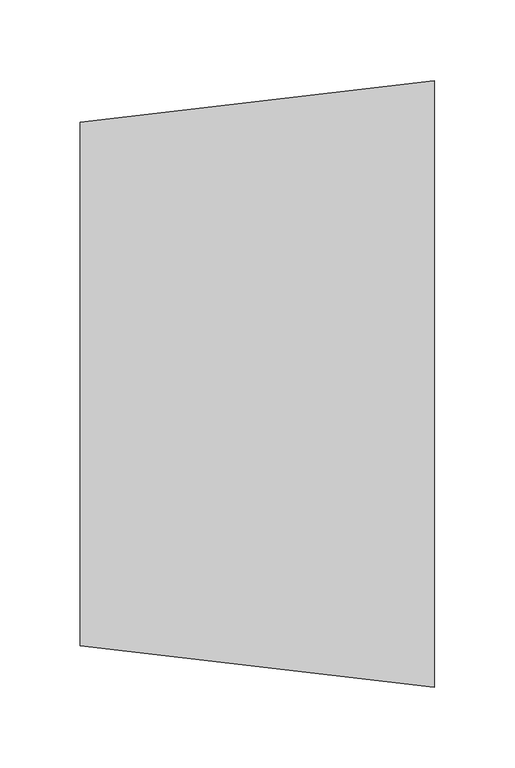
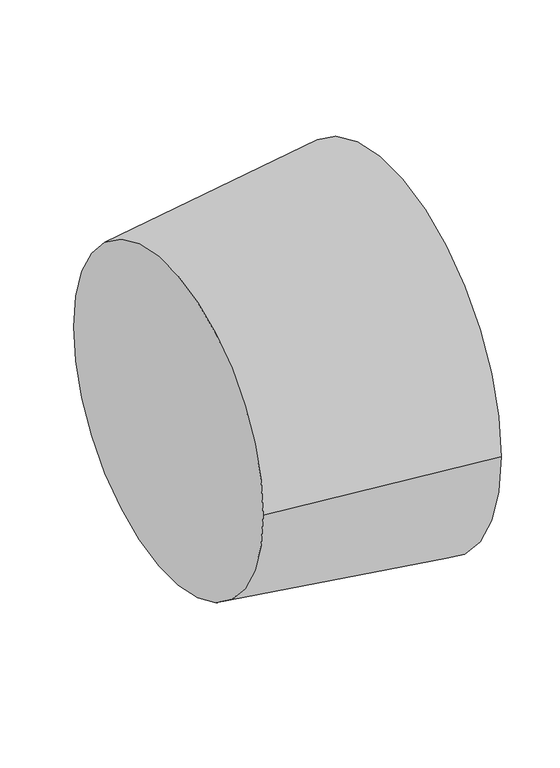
"""IFC4 building model written with IfcOpenShell, lengths in millimetres: pipe fitting geometry, ADSK_ДетальСтальнаяСварная_Переход_ГОСТ17378-2001 : Исполнение 2."""

import ifcopenshell
import ifcopenshell.guid

model = None  # the IFC model being written
_history = None  # IfcOwnerHistory: only IFC2X3 demands one
_inside = {}  # id of a spatial element -> (the spatial element, [elements in it])
_under = {}  # id of a project, library or spatial element -> (it, [spatial elements below it])
_declared = {}  # id of a project -> (the project, [libraries it declares])
_typed = {}  # id of a type object -> (the type object, [elements of that type])
_made_of = {}  # id of a material, layer set ... -> (it, [elements and type objects made of it])


def new_model(schema):
    """Start an empty IFC model of exactly this schema.

    Asked for "IFC4X3", IfcOpenShell would pick the latest addendum, in which some entities
    have other attributes; the version numbers below select the first issue.
    IFC2X3 requires an IfcOwnerHistory on every rooted entity: one is made here for all.
    """
    global model, _history
    if schema == "IFC4X3":
        model = ifcopenshell.file(schema_version=(4, 3, 0, 0))
    else:
        model = ifcopenshell.file(schema=schema)
    _inside.clear()
    _under.clear()
    _declared.clear()
    _typed.clear()
    _made_of.clear()
    _history = None
    if model.schema == "IFC2X3":
        org = make("IfcOrganization", Name="unknown")
        user = make(
            "IfcPersonAndOrganization",
            ThePerson=make("IfcPerson", FamilyName="unknown"),
            TheOrganization=org,
        )
        app = make(
            "IfcApplication",
            ApplicationDeveloper=org,
            Version="unknown",
            ApplicationFullName="unknown",
            ApplicationIdentifier="unknown",
        )
        _history = make(
            "IfcOwnerHistory",
            OwningUser=user,
            OwningApplication=app,
            ChangeAction="ADDED",
            CreationDate=0,
        )
    return model


def make(cls, **values):
    """One entity of the class cls with the attributes given. An attribute that is None is left unset."""
    return model.create_entity(
        cls, **{name: value for name, value in values.items() if value is not None}
    )


def rooted(cls, **values):
    """An entity with a GlobalId (a new one), such as an element, a storey or a relation."""
    return make(cls, GlobalId=ifcopenshell.guid.new(), OwnerHistory=_history, **values)


def si_unit(unit_type, name, prefix=None):
    """IfcSIUnit, for example si_unit("LENGTHUNIT", "METRE", prefix="MILLI")."""
    return make("IfcSIUnit", UnitType=unit_type, Prefix=prefix, Name=name)


def assignment(units):
    """IfcUnitAssignment: the units of a project."""
    return None if units is None else make("IfcUnitAssignment", Units=units)


def point(xyz):
    """IfcCartesianPoint."""
    return None if xyz is None else make("IfcCartesianPoint", Coordinates=xyz)


def direction(xyz):
    """IfcDirection."""
    return None if xyz is None else make("IfcDirection", DirectionRatios=xyz)


def frame(location, z_axis=None, x_axis=None):
    """IfcAxis2Placement3D, a coordinate frame: its origin and axes. An axis left out is left unset."""
    return make(
        "IfcAxis2Placement3D",
        Location=point(location),
        Axis=direction(z_axis),
        RefDirection=direction(x_axis),
    )


def origin():
    """The frame at (0, 0, 0) with its axes left unset."""
    return frame((0.0, 0.0, 0.0))


def place(relative_to, where):
    """IfcLocalPlacement: puts the frame where relative to a parent placement (None: the world)."""
    return make(
        "IfcLocalPlacement", PlacementRelTo=relative_to, RelativePlacement=where
    )


def context(
    kind, dimensions, precision=None, world=None, true_north=None, identifier=None
):
    """IfcGeometricRepresentationContext, for example the 3D "Model" context."""
    return make(
        "IfcGeometricRepresentationContext",
        ContextIdentifier=identifier,
        ContextType=kind,
        CoordinateSpaceDimension=dimensions,
        Precision=precision,
        WorldCoordinateSystem=world,
        TrueNorth=true_north,
    )


def project(units=None, contexts=None):
    """IfcProject with its units and contexts."""
    return rooted(
        "IfcProject",
        Name="project",
        RepresentationContexts=contexts,
        UnitsInContext=assignment(units),
    )


def spatial(cls, under=None, at=None, **own):
    """A site, building, storey or space (cls), placed at a placement, below another one or the project."""
    s = rooted(cls, ObjectPlacement=at, **own)
    if under is not None:
        _under.setdefault(under.id(), (under, []))[1].append(s)
    return s


def polyline(points):
    """IfcPolyline through the points."""
    return make("IfcPolyline", Points=[point(p) for p in points])


def circle_curve(where, radius):
    """IfcCircle in the frame where."""
    return make("IfcCircle", Position=where, Radius=radius)


def shape(context_of_items, identifier, shape_type, items):
    """IfcShapeRepresentation: the items that make up one representation, for example the "Body"."""
    return make(
        "IfcShapeRepresentation",
        ContextOfItems=context_of_items,
        RepresentationIdentifier=identifier,
        RepresentationType=shape_type,
        Items=items,
    )


def source(mapping_origin, context_of_items, identifier, shape_type, items):
    """IfcRepresentationMap: a shape defined once, which mapped items show again and again."""
    return make(
        "IfcRepresentationMap",
        MappingOrigin=mapping_origin,
        MappedRepresentation=shape(context_of_items, identifier, shape_type, items),
    )


def transform(
    local_origin,
    x_axis=None,
    y_axis=None,
    z_axis=None,
    scale=None,
    scale2=None,
    scale3=None,
    uniform=True,
):
    """IfcCartesianTransformationOperator3D, or its non-uniform kind. x_axis, y_axis, z_axis: its Axis1, 2, 3."""
    if uniform:
        return make(
            "IfcCartesianTransformationOperator3D",
            Axis1=direction(x_axis),
            Axis2=direction(y_axis),
            LocalOrigin=point(local_origin),
            Scale=scale,
            Axis3=direction(z_axis),
        )
    return make(
        "IfcCartesianTransformationOperator3DnonUniform",
        Axis1=direction(x_axis),
        Axis2=direction(y_axis),
        LocalOrigin=point(local_origin),
        Scale=scale,
        Axis3=direction(z_axis),
        Scale2=scale2,
        Scale3=scale3,
    )


def mapped(mapping_source, mapping_target):
    """IfcMappedItem: shows the shape of a source again, moved by a transform."""
    return make(
        "IfcMappedItem", MappingSource=mapping_source, MappingTarget=mapping_target
    )


def made_of(thing, what):
    """Note that an element or type object is made of a material, layer set ...; save() writes the relation."""
    if what is not None:
        _made_of.setdefault(what.id(), (what, []))[1].append(thing)
    return thing


def element(
    cls,
    number,
    at=None,
    inside=None,
    cuts=None,
    type_object=None,
    material=None,
    context=None,
    identifier="Body",
    shape_type=None,
    held_by="IfcProductDefinitionShape",
    body=None,
    shapes=None,
    **own,
):
    """One element of the class cls, such as IfcWall. Its Tag is "e" and its number.

    at: its placement. inside: the storey or other place that contains it. cuts: it is an
    opening in that element (IfcRelVoidsElement). A single representation is given by context,
    identifier, shape_type and body (its items); several are given by shapes. held_by: the class
    of the entity that holds the representations. save() writes the other relations.
    """
    e = rooted(cls, Tag="e%d" % number, ObjectPlacement=at, **own)
    if body is not None:
        shapes = [shape(context, identifier, shape_type, body)]
    if shapes is not None:
        e.Representation = make(held_by, Representations=shapes)
    if inside is not None:
        _inside.setdefault(inside.id(), (inside, []))[1].append(e)
    if cuts is not None:
        rooted(
            "IfcRelVoidsElement", RelatingBuildingElement=cuts, RelatedOpeningElement=e
        )
    if type_object is not None:
        _typed.setdefault(type_object.id(), (type_object, []))[1].append(e)
    return made_of(e, material)


def aggregate(whole, parts):
    """IfcRelAggregates: a whole, such as a stair, and the parts it consists of."""
    return rooted("IfcRelAggregates", RelatingObject=whole, RelatedObjects=parts)


def save(model, path):
    """Write the relations noted so far, then the file.

    IfcRelAggregates (storeys below a building ...), IfcRelContainedInSpatialStructure (elements
    in a storey), IfcRelDefinesByType, IfcRelAssociatesMaterial and IfcRelDeclares: one each for
    every whole, place, type object, material and project.
    """
    for whole, parts in _under.values():
        aggregate(whole, parts)
    for where, things in _inside.values():
        rooted(
            "IfcRelContainedInSpatialStructure",
            RelatedElements=things,
            RelatingStructure=where,
        )
    for kind, things in _typed.values():
        rooted("IfcRelDefinesByType", RelatedObjects=things, RelatingType=kind)
    for what, things in _made_of.values():
        rooted("IfcRelAssociatesMaterial", RelatedObjects=things, RelatingMaterial=what)
    for by, libraries in _declared.values():
        rooted("IfcRelDeclares", RelatingContext=by, RelatedDefinitions=libraries)
    model.write(path)


def plane_surface(at):
    """IfcPlane: the flat surface through the origin of the frame at, square to its z axis."""
    return make("IfcPlane", Position=at)


def revolved_surface(curve, axis_point, axis_direction):
    """IfcSurfaceOfRevolution: the curve turned about the line through axis_point along axis_direction."""
    return make(
        "IfcSurfaceOfRevolution",
        SweptCurve=make("IfcArbitraryOpenProfileDef", ProfileType="CURVE", Curve=curve),
        AxisPosition=make("IfcAxis1Placement", Location=point(axis_point), Axis=direction(axis_direction)),
    )


def advanced_brep(points, edges, surfaces, faces):
    """IfcAdvancedBrep: a solid bounded by faces that lie on surfaces and meet in shared edges.

    An edge is (start, end): straight between two places in points (the first is 0);
    or (start, end, curve); or (start, end, curve, False) where it runs against its curve.
    A face is (place in surfaces, loops), or (place, loops, False) where it looks against
    its surface's normal. A loop lists edges by number (the first is 1), with a minus sign
    where the edge is run from its end to its start. The first loop is the outer one.
    """
    corners = [point(p) for p in points]
    vertices = [make("IfcVertexPoint", VertexGeometry=c) for c in corners]
    made = []
    for start, end, *more in edges:
        made.append(
            make(
                "IfcEdgeCurve",
                EdgeStart=vertices[start],
                EdgeEnd=vertices[end],
                EdgeGeometry=more[0] if more else make("IfcPolyline", Points=[corners[start], corners[end]]),
                SameSense=more[1] if len(more) > 1 else True,
            )
        )
    hull = []
    for where, loops, *sense in faces:
        bounds = []
        for j, loop in enumerate(loops):
            ring = [make("IfcOrientedEdge", EdgeElement=made[abs(k) - 1], Orientation=k > 0) for k in loop]
            bounds.append(
                make(
                    "IfcFaceOuterBound" if j == 0 else "IfcFaceBound",
                    Bound=make("IfcEdgeLoop", EdgeList=ring),
                    Orientation=True,
                )
            )
        hull.append(make("IfcAdvancedFace", Bounds=bounds, FaceSurface=surfaces[where], SameSense=sense[0] if sense else True))
    return make("IfcAdvancedBrep", Outer=make("IfcClosedShell", CfsFaces=hull))


def pipe_fitting_d205abad(model_context):
    return source(origin(), model_context, "Body", "AdvancedBrep", [
        advanced_brep(
        [(220.0, -188.5, 0.0), (220.0, 188.5, 0.0), (0.0, -162.5, 0.0), (0.0, 162.5, 0.0)],
        [
            (0, 1, circle_curve(frame((220.0, 0.0, 0.0), z_axis=(1.0, 0.0, 0.0), x_axis=(0.0, -1.0, 0.0)), 188.5)),
            (1, 0, circle_curve(frame((220.0, 0.0, 0.0), z_axis=(1.0, 0.0, 0.0), x_axis=(0.0, 1.0, 0.0)), 188.5)),
            (2, 3, circle_curve(frame((0.0, 0.0, 0.0), z_axis=(-1.0, 0.0, 0.0), x_axis=(0.0, 1.0, 0.0)), 162.5)),
            (3, 2, circle_curve(frame((0.0, 0.0, 0.0), z_axis=(-1.0, 0.0, 0.0), x_axis=(0.0, -1.0, 0.0)), 162.5)),
            (3, 1),
            (0, 2),
        ],
        [
            plane_surface(frame((220.0, 0.0, 0.0), z_axis=(1.0, 0.0, 0.0), x_axis=(0.0, 0.0, -1.0))),
            plane_surface(frame((0.0, 0.0, 0.0), z_axis=(-1.0, 0.0, 0.0), x_axis=(0.0, 0.0, -1.0))),
            revolved_surface(polyline([(0.0, 162.5, 0.0), (220.0, 188.5, 0.0)]), (-1375.0, 0.0, 0.0), (1.0, 0.0, 0.0)),
            revolved_surface(polyline([(0.0, -162.5, 0.0), (220.0, -188.5, 0.0)]), (-1375.0, 0.0, 0.0), (1.0, 0.0, 0.0)),
        ],
        [
            (0, [[1, 2]]),
            (1, [[3, 4]]),
            (2, [[-4, 5, -1, 6]]),
            (3, [[-3, -6, -2, -5]]),
        ],
    ),
    ])


if __name__ == "__main__":
    model = new_model("IFC4")
    model_context = context("Model", 3, world=origin())
    ifc_project = project(units=[si_unit("LENGTHUNIT", "METRE", prefix="MILLI")], contexts=[model_context])
    site = spatial("IfcSite", under=ifc_project)
    building = spatial("IfcBuilding", under=site)
    placement = place(None, origin())
    pipe_fitting_shape = pipe_fitting_d205abad(model_context)
    element("IfcPipeFitting", 1, ObjectType="ADSK_ДетальСтальнаяСварная_Переход_ГОСТ17378-2001 : Исполнение 2", at=placement, inside=building, context=model_context, shape_type="MappedRepresentation", body=[
        mapped(pipe_fitting_shape, transform((0.0, 0.0, 0.0), x_axis=(1.0, 0.0, 0.0), y_axis=(0.0, 1.0, 0.0), z_axis=(0.0, 0.0, 1.0))),
    ])
    save(model, "model.ifc")
